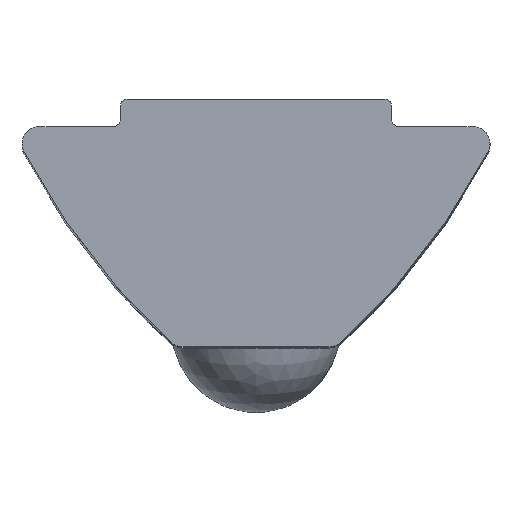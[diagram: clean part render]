
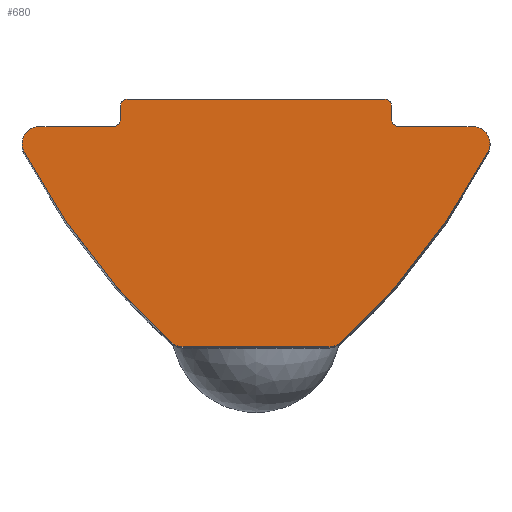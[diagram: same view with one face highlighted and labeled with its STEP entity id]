
A CAD part, top view. The second image highlights one B-rep face of the part: STEP entity #680.
In plain terms, the highlighted planar face has unit normal (0, 0, 1).
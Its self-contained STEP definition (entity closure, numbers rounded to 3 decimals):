
#66 = DIRECTION ( 'NONE',  ( 1., 0., 0. ) ) ;
#333 = VERTEX_POINT ( 'NONE', #7496 ) ;
#458 = EDGE_CURVE ( 'NONE', #1337, #5445, #8493, .T. ) ;
#539 = EDGE_CURVE ( 'NONE', #13119, #11661, #11544, .T. ) ;
#680 = ADVANCED_FACE ( 'NONE', ( #5829 ), #2715, .T. ) ;
#751 = CARTESIAN_POINT ( 'NONE',  ( -3.8, -0.2, 40. ) ) ;
#775 = DIRECTION ( 'NONE',  ( 0., 0., 1. ) ) ;
#843 = VERTEX_POINT ( 'NONE', #1100 ) ;
#945 = CARTESIAN_POINT ( 'NONE',  ( 4.2, -0.6, 40. ) ) ;
#948 = DIRECTION ( 'NONE',  ( 1., 0., 0. ) ) ;
#983 = ORIENTED_EDGE ( 'NONE', *, *, #13054, .T. ) ;
#1006 = ORIENTED_EDGE ( 'NONE', *, *, #10527, .F. ) ;
#1100 = CARTESIAN_POINT ( 'NONE',  ( -2.15, -7.3, 40. ) ) ;
#1153 = CARTESIAN_POINT ( 'NONE',  ( -6.4, -0.8, 40. ) ) ;
#1167 = CIRCLE ( 'NONE', #8602, 0.2 ) ;
#1178 = EDGE_CURVE ( 'NONE', #6771, #6488, #1776, .T. ) ;
#1337 = VERTEX_POINT ( 'NONE', #11423 ) ;
#1426 = VERTEX_POINT ( 'NONE', #9962 ) ;
#1451 = CARTESIAN_POINT ( 'NONE',  ( 4., 0., 40. ) ) ;
#1472 = ORIENTED_EDGE ( 'NONE', *, *, #3867, .T. ) ;
#1608 = CIRCLE ( 'NONE', #7931, 0.5 ) ;
#1722 = CARTESIAN_POINT ( 'NONE',  ( 0., -3.001, 40. ) ) ;
#1776 = CIRCLE ( 'NONE', #10915, 20. ) ;
#1979 = DIRECTION ( 'NONE',  ( 1., 0., 0. ) ) ;
#2362 = CARTESIAN_POINT ( 'NONE',  ( -4., -0.8, 40. ) ) ;
#2413 = EDGE_CURVE ( 'NONE', #9053, #3760, #11346, .T. ) ;
#2426 = DIRECTION ( 'NONE',  ( 1., 0., 0. ) ) ;
#2629 = DIRECTION ( 'NONE',  ( 0., 1., 0. ) ) ;
#2643 = EDGE_CURVE ( 'NONE', #843, #9780, #13033, .T. ) ;
#2692 = ORIENTED_EDGE ( 'NONE', *, *, #2413, .T. ) ;
#2715 = PLANE ( 'NONE',  #12191 ) ;
#2815 = DIRECTION ( 'NONE',  ( 1., 0., 0. ) ) ;
#2848 = VECTOR ( 'NONE', #6538, 1000. ) ;
#2866 = CIRCLE ( 'NONE', #6663, 0.2 ) ;
#2874 = EDGE_CURVE ( 'NONE', #1426, #11661, #5390, .T. ) ;
#2909 = CARTESIAN_POINT ( 'NONE',  ( 6.4, -0.8, 40. ) ) ;
#3044 = CARTESIAN_POINT ( 'NONE',  ( 0., -0.8, 40. ) ) ;
#3257 = CARTESIAN_POINT ( 'NONE',  ( 2.15, -7.3, 40. ) ) ;
#3375 = ORIENTED_EDGE ( 'NONE', *, *, #11506, .F. ) ;
#3618 = DIRECTION ( 'NONE',  ( -1., 0., 0. ) ) ;
#3619 = CARTESIAN_POINT ( 'NONE',  ( 4.2, -0.8, 40. ) ) ;
#3636 = DIRECTION ( 'NONE',  ( 0., 0., -1. ) ) ;
#3723 = ORIENTED_EDGE ( 'NONE', *, *, #4991, .F. ) ;
#3760 = VERTEX_POINT ( 'NONE', #9544 ) ;
#3848 = EDGE_CURVE ( 'NONE', #333, #7596, #6864, .T. ) ;
#3867 = EDGE_CURVE ( 'NONE', #3760, #8504, #5803, .T. ) ;
#3921 = AXIS2_PLACEMENT_3D ( 'NONE', #9197, #5935, #10082 ) ;
#3962 = DIRECTION ( 'NONE',  ( 0., 0., -1. ) ) ;
#4066 = ORIENTED_EDGE ( 'NONE', *, *, #12011, .T. ) ;
#4427 = LINE ( 'NONE', #2362, #5182 ) ;
#4448 = CARTESIAN_POINT ( 'NONE',  ( -4., -0.6, 40. ) ) ;
#4536 = AXIS2_PLACEMENT_3D ( 'NONE', #7763, #775, #5761 ) ;
#4892 = DIRECTION ( 'NONE',  ( 1., 0., 0. ) ) ;
#4961 = AXIS2_PLACEMENT_3D ( 'NONE', #11950, #3962, #4892 ) ;
#4991 = EDGE_CURVE ( 'NONE', #9053, #7596, #4427, .T. ) ;
#5096 = CARTESIAN_POINT ( 'NONE',  ( 10.908, 7.682, 40. ) ) ;
#5149 = CARTESIAN_POINT ( 'NONE',  ( -4., -0.2, 40. ) ) ;
#5182 = VECTOR ( 'NONE', #2629, 1000. ) ;
#5245 = EDGE_CURVE ( 'NONE', #11366, #6912, #11098, .T. ) ;
#5390 = CIRCLE ( 'NONE', #9871, 0.5 ) ;
#5445 = VERTEX_POINT ( 'NONE', #11760 ) ;
#5627 = ORIENTED_EDGE ( 'NONE', *, *, #5245, .T. ) ;
#5628 = CIRCLE ( 'NONE', #4961, 0.5 ) ;
#5761 = DIRECTION ( 'NONE',  ( 1., 0., 0. ) ) ;
#5803 = LINE ( 'NONE', #11874, #11783 ) ;
#5829 = FACE_OUTER_BOUND ( 'NONE', #6879, .T. ) ;
#5895 = DIRECTION ( 'NONE',  ( -1., 0., 0. ) ) ;
#5896 = CARTESIAN_POINT ( 'NONE',  ( 0., -7.3, 40. ) ) ;
#5923 = CARTESIAN_POINT ( 'NONE',  ( 2.485, -7.171, 40. ) ) ;
#5935 = DIRECTION ( 'NONE',  ( 0., 0., -1. ) ) ;
#6014 = AXIS2_PLACEMENT_3D ( 'NONE', #751, #6924, #2815 ) ;
#6056 = DIRECTION ( 'NONE',  ( 0., 0., -1. ) ) ;
#6089 = ORIENTED_EDGE ( 'NONE', *, *, #12826, .T. ) ;
#6227 = VECTOR ( 'NONE', #1979, 1000. ) ;
#6445 = AXIS2_PLACEMENT_3D ( 'NONE', #10216, #13148, #9200 ) ;
#6488 = VERTEX_POINT ( 'NONE', #6975 ) ;
#6538 = DIRECTION ( 'NONE',  ( -1., 0., 0. ) ) ;
#6663 = AXIS2_PLACEMENT_3D ( 'NONE', #8051, #12120, #7051 ) ;
#6703 = EDGE_CURVE ( 'NONE', #10895, #333, #10750, .T. ) ;
#6771 = VERTEX_POINT ( 'NONE', #11745 ) ;
#6864 = CIRCLE ( 'NONE', #6014, 0.2 ) ;
#6879 = EDGE_LOOP ( 'NONE', ( #6976, #4066, #8088, #10087, #3723, #2692, #1472, #7111, #7948, #983, #11449, #1006, #8570, #11185, #3375, #5627, #6089 ) ) ;
#6912 = VERTEX_POINT ( 'NONE', #3619 ) ;
#6924 = DIRECTION ( 'NONE',  ( 0., 0., 1. ) ) ;
#6975 = CARTESIAN_POINT ( 'NONE',  ( -6.844, -1.53, 40. ) ) ;
#6976 = ORIENTED_EDGE ( 'NONE', *, *, #458, .F. ) ;
#7051 = DIRECTION ( 'NONE',  ( 1., 0., 0. ) ) ;
#7111 = ORIENTED_EDGE ( 'NONE', *, *, #11676, .F. ) ;
#7496 = CARTESIAN_POINT ( 'NONE',  ( -3.8, 0., 40. ) ) ;
#7596 = VERTEX_POINT ( 'NONE', #5149 ) ;
#7697 = DIRECTION ( 'NONE',  ( 1., 0., 0. ) ) ;
#7730 = AXIS2_PLACEMENT_3D ( 'NONE', #12546, #10418, #2426 ) ;
#7763 = CARTESIAN_POINT ( 'NONE',  ( -10.908, 7.682, 40. ) ) ;
#7827 = DIRECTION ( 'NONE',  ( 0., 0., 1. ) ) ;
#7923 = DIRECTION ( 'NONE',  ( 0., 0., 1. ) ) ;
#7931 = AXIS2_PLACEMENT_3D ( 'NONE', #8118, #7923, #8988 ) ;
#7948 = ORIENTED_EDGE ( 'NONE', *, *, #1178, .F. ) ;
#8051 = CARTESIAN_POINT ( 'NONE',  ( 3.8, -0.2, 40. ) ) ;
#8088 = ORIENTED_EDGE ( 'NONE', *, *, #6703, .T. ) ;
#8118 = CARTESIAN_POINT ( 'NONE',  ( -2.15, -6.8, 40. ) ) ;
#8152 = DIRECTION ( 'NONE',  ( 0., 0., -1. ) ) ;
#8471 = CARTESIAN_POINT ( 'NONE',  ( 6.844, -1.53, 40. ) ) ;
#8480 = DIRECTION ( 'NONE',  ( 1., 0., 0. ) ) ;
#8493 = LINE ( 'NONE', #1451, #9196 ) ;
#8504 = VERTEX_POINT ( 'NONE', #1153 ) ;
#8570 = ORIENTED_EDGE ( 'NONE', *, *, #539, .T. ) ;
#8602 = AXIS2_PLACEMENT_3D ( 'NONE', #945, #6056, #66 ) ;
#8988 = DIRECTION ( 'NONE',  ( 1., 0., 0. ) ) ;
#9053 = VERTEX_POINT ( 'NONE', #4448 ) ;
#9196 = VECTOR ( 'NONE', #9572, 1000. ) ;
#9197 = CARTESIAN_POINT ( 'NONE',  ( 2.15, -6.8, 40. ) ) ;
#9200 = DIRECTION ( 'NONE',  ( 1., 0., 0. ) ) ;
#9456 = CIRCLE ( 'NONE', #3921, 0.5 ) ;
#9544 = CARTESIAN_POINT ( 'NONE',  ( -4.2, -0.8, 40. ) ) ;
#9572 = DIRECTION ( 'NONE',  ( 0., -1., 0. ) ) ;
#9780 = VERTEX_POINT ( 'NONE', #3257 ) ;
#9871 = AXIS2_PLACEMENT_3D ( 'NONE', #11761, #3636, #948 ) ;
#9962 = CARTESIAN_POINT ( 'NONE',  ( 6.9, -1.3, 40. ) ) ;
#10082 = DIRECTION ( 'NONE',  ( 1., 0., 0. ) ) ;
#10087 = ORIENTED_EDGE ( 'NONE', *, *, #3848, .T. ) ;
#10216 = CARTESIAN_POINT ( 'NONE',  ( -4.2, -0.6, 40. ) ) ;
#10418 = DIRECTION ( 'NONE',  ( 0., 0., -1. ) ) ;
#10527 = EDGE_CURVE ( 'NONE', #13119, #9780, #9456, .T. ) ;
#10750 = LINE ( 'NONE', #10815, #2848 ) ;
#10815 = CARTESIAN_POINT ( 'NONE',  ( 0., 0., 40. ) ) ;
#10895 = VERTEX_POINT ( 'NONE', #12442 ) ;
#10915 = AXIS2_PLACEMENT_3D ( 'NONE', #5096, #8152, #8480 ) ;
#11098 = LINE ( 'NONE', #3044, #11792 ) ;
#11185 = ORIENTED_EDGE ( 'NONE', *, *, #2874, .F. ) ;
#11346 = CIRCLE ( 'NONE', #6445, 0.2 ) ;
#11366 = VERTEX_POINT ( 'NONE', #2909 ) ;
#11423 = CARTESIAN_POINT ( 'NONE',  ( 4., -0.2, 40. ) ) ;
#11449 = ORIENTED_EDGE ( 'NONE', *, *, #2643, .T. ) ;
#11506 = EDGE_CURVE ( 'NONE', #11366, #1426, #5628, .T. ) ;
#11544 = CIRCLE ( 'NONE', #4536, 20. ) ;
#11661 = VERTEX_POINT ( 'NONE', #8471 ) ;
#11676 = EDGE_CURVE ( 'NONE', #6488, #8504, #13079, .T. ) ;
#11745 = CARTESIAN_POINT ( 'NONE',  ( -2.485, -7.171, 40. ) ) ;
#11760 = CARTESIAN_POINT ( 'NONE',  ( 4., -0.6, 40. ) ) ;
#11761 = CARTESIAN_POINT ( 'NONE',  ( 6.4, -1.3, 40. ) ) ;
#11783 = VECTOR ( 'NONE', #3618, 1000. ) ;
#11792 = VECTOR ( 'NONE', #5895, 1000. ) ;
#11874 = CARTESIAN_POINT ( 'NONE',  ( 0., -0.8, 40. ) ) ;
#11950 = CARTESIAN_POINT ( 'NONE',  ( 6.4, -1.3, 40. ) ) ;
#12011 = EDGE_CURVE ( 'NONE', #1337, #10895, #2866, .T. ) ;
#12120 = DIRECTION ( 'NONE',  ( 0., 0., 1. ) ) ;
#12191 = AXIS2_PLACEMENT_3D ( 'NONE', #1722, #7827, #7697 ) ;
#12442 = CARTESIAN_POINT ( 'NONE',  ( 3.8, 0., 40. ) ) ;
#12546 = CARTESIAN_POINT ( 'NONE',  ( -6.4, -1.3, 40. ) ) ;
#12826 = EDGE_CURVE ( 'NONE', #6912, #5445, #1167, .T. ) ;
#13033 = LINE ( 'NONE', #5896, #6227 ) ;
#13054 = EDGE_CURVE ( 'NONE', #6771, #843, #1608, .T. ) ;
#13079 = CIRCLE ( 'NONE', #7730, 0.5 ) ;
#13119 = VERTEX_POINT ( 'NONE', #5923 ) ;
#13148 = DIRECTION ( 'NONE',  ( 0., 0., -1. ) ) ;
